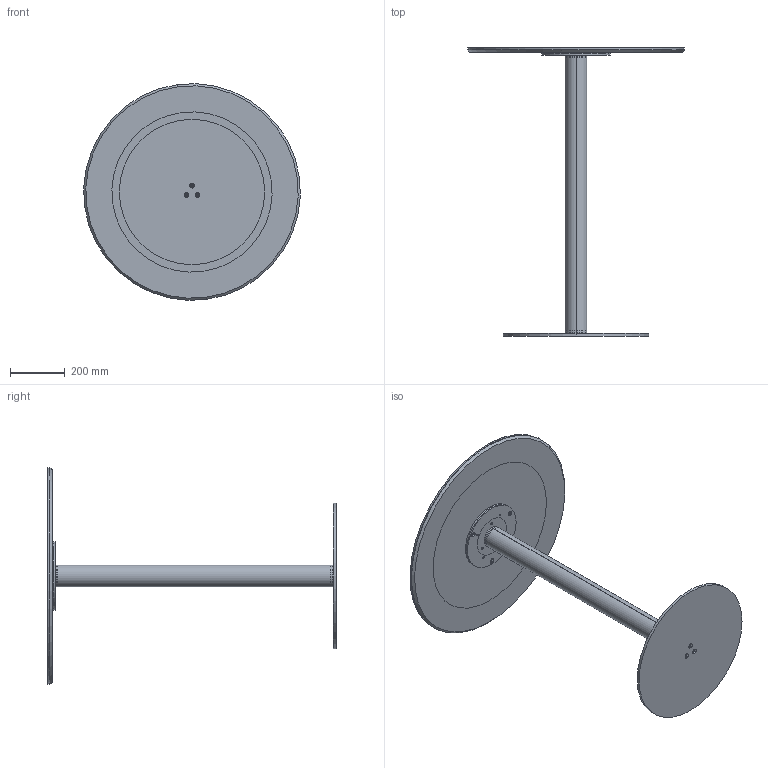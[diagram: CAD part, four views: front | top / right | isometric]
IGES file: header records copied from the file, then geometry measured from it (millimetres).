
Start section: SolidWorks IGES file using analytic representation for surfaces
Global section: file name: Y:\eforma\TECNICO\SOLIDWORKS\E-FORMA\5-TAVOLINI BISTRO\CILINDRO BISTRÒ H105\02 parts\CB10C.IGS; native system: SolidWorks 2022; preprocessor: SolidWorks 2022; author: eforma.tech; date: 240808.104848; units: millimetre
Bounding box: 789.44 x 1051 x 789.44 mm (x, y, z)
Volume: 15696923.4 mm3; surface area: 4398890.8 mm2
Topology: 12 solids, 12 shells, 154 faces, 354 edges, 224 vertices
Faces by surface type: revolution 130, plane 24
